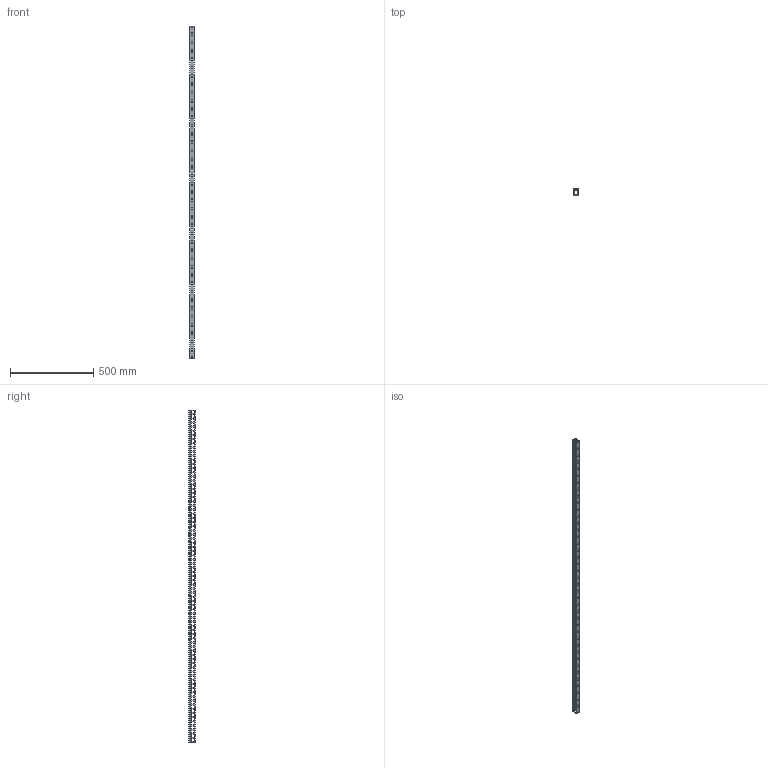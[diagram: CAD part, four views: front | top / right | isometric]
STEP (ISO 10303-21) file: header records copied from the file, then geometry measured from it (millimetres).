
FILE_DESCRIPTION (( 'STEP AP214' ), '1' );
FILE_NAME ('KD-24-20-LL.STEP', '2020-02-18T23:51:33', ( '' ), ( '' ), 'SwSTEP 2.0', 'SolidWorks 2018', '' );
FILE_SCHEMA (( 'AUTOMOTIVE_DESIGN' ));
Length unit declared in the file: millimetre
Products named in the file (3): KD-24-20-cover; KD-24-20-LL; KD-24-20-LL-body
Assembly tree (2 placements, depth 2):
  KD-24-20-LL
    KD-24-20-LL-body
    KD-24-20-cover
Bounding box: 25 x 40.17 x 2000 mm (x, y, z)
Volume: 433918.9 mm3; surface area: 558548.5 mm2
Topology: 2 solids, 2 shells, 1543 faces, 4617 edges, 3078 vertices
Faces by surface type: cylinder 795, plane 748
Entity records: 53327 total; most frequent: DIRECTION 9303, CARTESIAN_POINT 9243, ORIENTED_EDGE 9234, EDGE_CURVE 4617, AXIS2_PLACEMENT_3D 3138, VERTEX_POINT 3078, LINE 3027, VECTOR 3027
